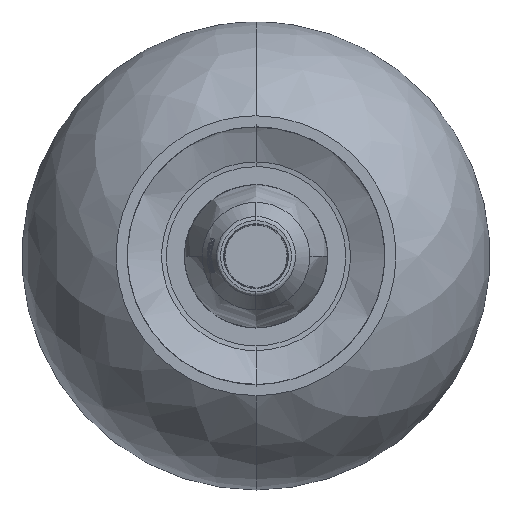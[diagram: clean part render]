
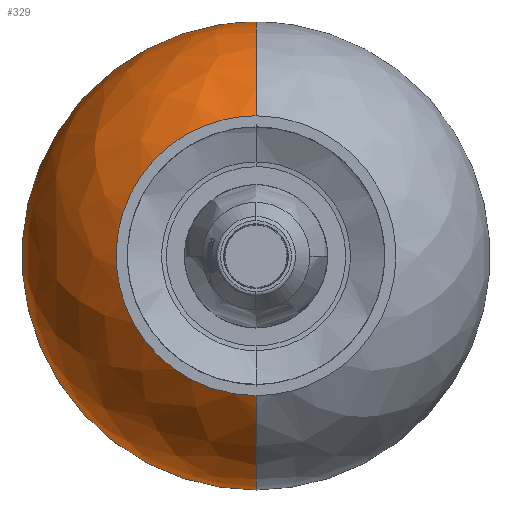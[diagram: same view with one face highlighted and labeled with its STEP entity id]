
A CAD part, top view. The second image highlights one B-rep face of the part: STEP entity #329.
In plain terms, the highlighted free-form (B-spline) face has degree [2, 2] with [9, 9] control points.
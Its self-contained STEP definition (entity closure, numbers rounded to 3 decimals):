
#329=ADVANCED_FACE('',(#595),#4532,.T.);
#595=FACE_OUTER_BOUND('',#876,.T.);
#876=EDGE_LOOP('',(#2236,#2237,#2238,#2239));
#2236=ORIENTED_EDGE('',*,*,#3026,.F.);
#2237=ORIENTED_EDGE('',*,*,#3035,.T.);
#2238=ORIENTED_EDGE('',*,*,#3036,.T.);
#2239=ORIENTED_EDGE('',*,*,#3037,.T.);
#3026=EDGE_CURVE('',#4262,#4263,#3769,.T.);
#3035=EDGE_CURVE('',#4262,#4270,#3778,.T.);
#3036=EDGE_CURVE('',#4270,#4271,#3779,.T.);
#3037=EDGE_CURVE('',#4271,#4263,#3780,.T.);
#3769=(
BOUNDED_CURVE()
B_SPLINE_CURVE(2,(#16523,#16524,#16525,#16526,#16527),.UNSPECIFIED.,.F.,
 .F.)
B_SPLINE_CURVE_WITH_KNOTS((3,2,3),(-471.581,-235.79,
0.),.UNSPECIFIED.)
CURVE()
GEOMETRIC_REPRESENTATION_ITEM()
RATIONAL_B_SPLINE_CURVE((1.,0.707,1.,0.707,1.))
REPRESENTATION_ITEM('')
);
#3778=(
BOUNDED_CURVE()
B_SPLINE_CURVE(2,(#16558,#16559,#16560),.UNSPECIFIED.,.F.,.F.)
B_SPLINE_CURVE_WITH_KNOTS((3,3),(0.,129.345),.UNSPECIFIED.)
CURVE()
GEOMETRIC_REPRESENTATION_ITEM()
RATIONAL_B_SPLINE_CURVE((1.,0.873,1.))
REPRESENTATION_ITEM('')
);
#3779=(
BOUNDED_CURVE()
B_SPLINE_CURVE(2,(#16561,#16562,#16563,#16564,#16565),.UNSPECIFIED.,.F.,
 .F.)
B_SPLINE_CURVE_WITH_KNOTS((3,2,3),(0.,140.966,281.933),
 .UNSPECIFIED.)
CURVE()
GEOMETRIC_REPRESENTATION_ITEM()
RATIONAL_B_SPLINE_CURVE((1.,0.707,1.,0.707,1.))
REPRESENTATION_ITEM('')
);
#3780=(
BOUNDED_CURVE()
B_SPLINE_CURVE(2,(#16566,#16567,#16568),.UNSPECIFIED.,.F.,.F.)
B_SPLINE_CURVE_WITH_KNOTS((3,3),(-129.345,0.),.UNSPECIFIED.)
CURVE()
GEOMETRIC_REPRESENTATION_ITEM()
RATIONAL_B_SPLINE_CURVE((1.,0.873,1.))
REPRESENTATION_ITEM('')
);
#4262=VERTEX_POINT('',#16466);
#4263=VERTEX_POINT('',#16467);
#4270=VERTEX_POINT('',#16474);
#4271=VERTEX_POINT('',#16475);
#4532=(
BOUNDED_SURFACE()
B_SPLINE_SURFACE(2,2,((#15767,#15768,#15769,#15770,#15771,#15772,#15773,
#15774,#15775),(#15776,#15777,#15778,#15779,#15780,#15781,#15782,#15783,
#15784),(#15785,#15786,#15787,#15788,#15789,#15790,#15791,#15792,#15793),
(#15794,#15795,#15796,#15797,#15798,#15799,#15800,#15801,#15802),(#15803,
#15804,#15805,#15806,#15807,#15808,#15809,#15810,#15811),(#15812,#15813,
#15814,#15815,#15816,#15817,#15818,#15819,#15820),(#15821,#15822,#15823,
#15824,#15825,#15826,#15827,#15828,#15829),(#15830,#15831,#15832,#15833,
#15834,#15835,#15836,#15837,#15838),(#15839,#15840,#15841,#15842,#15843,
#15844,#15845,#15846,#15847)),.UNSPECIFIED.,.T.,.F.,.F.)
B_SPLINE_SURFACE_WITH_KNOTS((3,2,2,2,3),(3,2,2,2,3),(0.,36.299,
72.599,108.898,145.197),(0.,111.365,
222.729,334.094,445.459),.UNSPECIFIED.)
GEOMETRIC_REPRESENTATION_ITEM()
RATIONAL_B_SPLINE_SURFACE(((1.,0.905,1.,0.905,1.,
0.905,1.,0.905,1.),(0.707,0.64,
0.707,0.64,0.707,0.64,
0.707,0.64,0.707),(1.,0.905,
1.,0.905,1.,0.905,1.,0.905,1.),(0.707,
0.64,0.707,0.64,0.707,
0.64,0.707,0.64,0.707),
(1.,0.905,1.,0.905,1.,0.905,1.,0.905,
1.),(0.707,0.64,0.707,0.64,
0.707,0.64,0.707,0.64,
0.707),(1.,0.905,1.,0.905,1.,0.905,
1.,0.905,1.),(0.707,0.64,0.707,
0.64,0.707,0.64,0.707,
0.64,0.707),(1.,0.905,1.,0.905,
1.,0.905,1.,0.905,1.)))
REPRESENTATION_ITEM('')
SURFACE()
);
#15767=CARTESIAN_POINT('',(0.057,-124.88,0.));
#15768=CARTESIAN_POINT('',(-58.497,-135.715,0.));
#15769=CARTESIAN_POINT('',(-104.275,-97.632,0.));
#15770=CARTESIAN_POINT('',(-150.052,-59.548,0.));
#15771=CARTESIAN_POINT('',(-150.052,0.,0.));
#15772=CARTESIAN_POINT('',(-150.052,59.548,0.));
#15773=CARTESIAN_POINT('',(-104.275,97.632,0.));
#15774=CARTESIAN_POINT('',(-58.497,135.715,0.));
#15775=CARTESIAN_POINT('',(0.057,124.88,0.));
#15776=CARTESIAN_POINT('',(0.057,-124.88,0.));
#15777=CARTESIAN_POINT('',(-58.497,-135.715,58.554));
#15778=CARTESIAN_POINT('',(-104.275,-97.632,104.331));
#15779=CARTESIAN_POINT('',(-150.052,-59.548,150.109));
#15780=CARTESIAN_POINT('',(-150.052,0.,150.109));
#15781=CARTESIAN_POINT('',(-150.052,59.548,150.109));
#15782=CARTESIAN_POINT('',(-104.275,97.632,104.331));
#15783=CARTESIAN_POINT('',(-58.497,135.715,58.554));
#15784=CARTESIAN_POINT('',(0.057,124.88,0.));
#15785=CARTESIAN_POINT('',(0.057,-124.88,0.));
#15786=CARTESIAN_POINT('',(0.057,-135.715,58.554));
#15787=CARTESIAN_POINT('',(0.057,-97.632,104.331));
#15788=CARTESIAN_POINT('',(0.057,-59.548,150.109));
#15789=CARTESIAN_POINT('',(0.057,0.,150.109));
#15790=CARTESIAN_POINT('',(0.057,59.548,150.109));
#15791=CARTESIAN_POINT('',(0.057,97.632,104.331));
#15792=CARTESIAN_POINT('',(0.057,135.715,58.554));
#15793=CARTESIAN_POINT('',(0.057,124.88,0.));
#15794=CARTESIAN_POINT('',(0.057,-124.88,0.));
#15795=CARTESIAN_POINT('',(58.61,-135.715,58.554));
#15796=CARTESIAN_POINT('',(104.388,-97.632,104.331));
#15797=CARTESIAN_POINT('',(150.165,-59.548,150.109));
#15798=CARTESIAN_POINT('',(150.165,0.,150.109));
#15799=CARTESIAN_POINT('',(150.165,59.548,150.109));
#15800=CARTESIAN_POINT('',(104.388,97.632,104.331));
#15801=CARTESIAN_POINT('',(58.61,135.715,58.554));
#15802=CARTESIAN_POINT('',(0.057,124.88,0.));
#15803=CARTESIAN_POINT('',(0.057,-124.88,0.));
#15804=CARTESIAN_POINT('',(58.61,-135.715,0.));
#15805=CARTESIAN_POINT('',(104.388,-97.632,0.));
#15806=CARTESIAN_POINT('',(150.165,-59.548,0.));
#15807=CARTESIAN_POINT('',(150.165,0.,0.));
#15808=CARTESIAN_POINT('',(150.165,59.548,0.));
#15809=CARTESIAN_POINT('',(104.388,97.632,0.));
#15810=CARTESIAN_POINT('',(58.61,135.715,0.));
#15811=CARTESIAN_POINT('',(0.057,124.88,0.));
#15812=CARTESIAN_POINT('',(0.057,-124.88,0.));
#15813=CARTESIAN_POINT('',(58.61,-135.715,-58.554));
#15814=CARTESIAN_POINT('',(104.388,-97.632,-104.331));
#15815=CARTESIAN_POINT('',(150.165,-59.548,-150.109));
#15816=CARTESIAN_POINT('',(150.165,0.,-150.109));
#15817=CARTESIAN_POINT('',(150.165,59.548,-150.109));
#15818=CARTESIAN_POINT('',(104.388,97.632,-104.331));
#15819=CARTESIAN_POINT('',(58.61,135.715,-58.554));
#15820=CARTESIAN_POINT('',(0.057,124.88,0.));
#15821=CARTESIAN_POINT('',(0.057,-124.88,0.));
#15822=CARTESIAN_POINT('',(0.057,-135.715,-58.554));
#15823=CARTESIAN_POINT('',(0.057,-97.632,-104.331));
#15824=CARTESIAN_POINT('',(0.057,-59.548,-150.109));
#15825=CARTESIAN_POINT('',(0.057,0.,-150.109));
#15826=CARTESIAN_POINT('',(0.057,59.548,-150.109));
#15827=CARTESIAN_POINT('',(0.057,97.632,-104.331));
#15828=CARTESIAN_POINT('',(0.057,135.715,-58.554));
#15829=CARTESIAN_POINT('',(0.057,124.88,0.));
#15830=CARTESIAN_POINT('',(0.057,-124.88,0.));
#15831=CARTESIAN_POINT('',(-58.497,-135.715,-58.554));
#15832=CARTESIAN_POINT('',(-104.275,-97.632,-104.331));
#15833=CARTESIAN_POINT('',(-150.052,-59.548,-150.109));
#15834=CARTESIAN_POINT('',(-150.052,0.,-150.109));
#15835=CARTESIAN_POINT('',(-150.052,59.548,-150.109));
#15836=CARTESIAN_POINT('',(-104.275,97.632,-104.331));
#15837=CARTESIAN_POINT('',(-58.497,135.715,-58.554));
#15838=CARTESIAN_POINT('',(0.057,124.88,0.));
#15839=CARTESIAN_POINT('',(0.057,-124.88,0.));
#15840=CARTESIAN_POINT('',(-58.497,-135.715,0.));
#15841=CARTESIAN_POINT('',(-104.275,-97.632,0.));
#15842=CARTESIAN_POINT('',(-150.052,-59.548,0.));
#15843=CARTESIAN_POINT('',(-150.052,0.,0.));
#15844=CARTESIAN_POINT('',(-150.052,59.548,0.));
#15845=CARTESIAN_POINT('',(-104.275,97.632,0.));
#15846=CARTESIAN_POINT('',(-58.497,135.715,0.));
#15847=CARTESIAN_POINT('',(0.057,124.88,0.));
#16466=CARTESIAN_POINT('',(0.057,0.,-150.109));
#16467=CARTESIAN_POINT('',(0.057,0.,150.109));
#16474=CARTESIAN_POINT('',(0.057,108.116,-89.742));
#16475=CARTESIAN_POINT('',(0.057,108.116,89.742));
#16523=CARTESIAN_POINT('',(0.057,0.,-150.109));
#16524=CARTESIAN_POINT('',(150.165,0.,-150.109));
#16525=CARTESIAN_POINT('',(150.165,0.,0.));
#16526=CARTESIAN_POINT('',(150.165,0.,150.109));
#16527=CARTESIAN_POINT('',(0.057,0.,150.109));
#16558=CARTESIAN_POINT('',(0.057,0.,-150.109));
#16559=CARTESIAN_POINT('',(0.057,70.911,-150.109));
#16560=CARTESIAN_POINT('',(0.057,108.116,-89.742));
#16561=CARTESIAN_POINT('',(0.057,108.116,-89.742));
#16562=CARTESIAN_POINT('',(89.799,108.116,-89.742));
#16563=CARTESIAN_POINT('',(89.799,108.116,0.));
#16564=CARTESIAN_POINT('',(89.799,108.116,89.742));
#16565=CARTESIAN_POINT('',(0.057,108.116,89.742));
#16566=CARTESIAN_POINT('',(0.057,108.116,89.742));
#16567=CARTESIAN_POINT('',(0.057,70.911,150.109));
#16568=CARTESIAN_POINT('',(0.057,0.,150.109));
